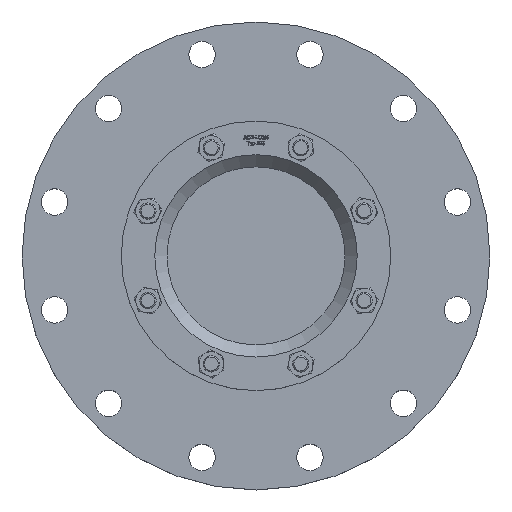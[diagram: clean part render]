
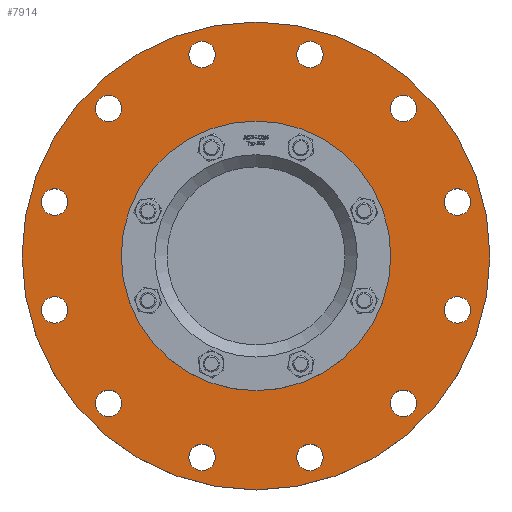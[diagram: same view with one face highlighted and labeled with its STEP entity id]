
A CAD part, top view. The second image highlights one B-rep face of the part: STEP entity #7914.
In plain terms, the highlighted planar face has unit normal (0, 0, 1).
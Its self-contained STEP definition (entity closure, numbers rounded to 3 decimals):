
#1732=FACE_BOUND('',#3178,.T.);
#1733=FACE_BOUND('',#3179,.T.);
#1734=FACE_BOUND('',#3180,.T.);
#1735=FACE_BOUND('',#3181,.T.);
#1736=FACE_BOUND('',#3182,.T.);
#1737=FACE_BOUND('',#3183,.T.);
#1738=FACE_BOUND('',#3184,.T.);
#1739=FACE_BOUND('',#3185,.T.);
#1740=FACE_BOUND('',#3186,.T.);
#1741=FACE_BOUND('',#3187,.T.);
#1742=FACE_BOUND('',#3188,.T.);
#1743=FACE_BOUND('',#3189,.T.);
#1744=FACE_BOUND('',#3190,.T.);
#1745=FACE_BOUND('',#3191,.T.);
#1746=FACE_BOUND('',#3192,.T.);
#1747=FACE_BOUND('',#3193,.T.);
#1748=FACE_BOUND('',#3194,.T.);
#1749=FACE_BOUND('',#3195,.T.);
#1750=FACE_BOUND('',#3196,.T.);
#1751=FACE_BOUND('',#3197,.T.);
#1752=FACE_BOUND('',#3198,.T.);
#2646=FACE_OUTER_BOUND('',#3177,.T.);
#3177=EDGE_LOOP('',(#7242));
#3178=EDGE_LOOP('',(#7243));
#3179=EDGE_LOOP('',(#7244));
#3180=EDGE_LOOP('',(#7245));
#3181=EDGE_LOOP('',(#7246));
#3182=EDGE_LOOP('',(#7247));
#3183=EDGE_LOOP('',(#7248));
#3184=EDGE_LOOP('',(#7249));
#3185=EDGE_LOOP('',(#7250));
#3186=EDGE_LOOP('',(#7251));
#3187=EDGE_LOOP('',(#7252));
#3188=EDGE_LOOP('',(#7253));
#3189=EDGE_LOOP('',(#7254));
#3190=EDGE_LOOP('',(#7255));
#3191=EDGE_LOOP('',(#7256));
#3192=EDGE_LOOP('',(#7257));
#3193=EDGE_LOOP('',(#7258));
#3194=EDGE_LOOP('',(#7259));
#3195=EDGE_LOOP('',(#7260));
#3196=EDGE_LOOP('',(#7261));
#3197=EDGE_LOOP('',(#7262));
#3198=EDGE_LOOP('',(#7263));
#3224=CIRCLE('',#7936,102.);
#3347=CIRCLE('',#8368,230.);
#3348=CIRCLE('',#8370,13.);
#3349=CIRCLE('',#8372,13.);
#3350=CIRCLE('',#8374,13.);
#3351=CIRCLE('',#8376,13.);
#3352=CIRCLE('',#8378,13.);
#3353=CIRCLE('',#8380,13.);
#3354=CIRCLE('',#8382,13.);
#3355=CIRCLE('',#8384,13.);
#3356=CIRCLE('',#8386,13.);
#3357=CIRCLE('',#8388,13.);
#3358=CIRCLE('',#8390,13.);
#3359=CIRCLE('',#8392,13.);
#3361=CIRCLE('',#8396,8.);
#3363=CIRCLE('',#8399,8.);
#3365=CIRCLE('',#8402,8.);
#3367=CIRCLE('',#8405,8.);
#3369=CIRCLE('',#8408,8.);
#3371=CIRCLE('',#8411,8.);
#3373=CIRCLE('',#8414,8.);
#3375=CIRCLE('',#8417,8.);
#3392=VERTEX_POINT('',#9952);
#4049=VERTEX_POINT('',#13834);
#4050=VERTEX_POINT('',#13837);
#4051=VERTEX_POINT('',#13840);
#4052=VERTEX_POINT('',#13843);
#4053=VERTEX_POINT('',#13846);
#4054=VERTEX_POINT('',#13849);
#4055=VERTEX_POINT('',#13852);
#4056=VERTEX_POINT('',#13855);
#4057=VERTEX_POINT('',#13858);
#4058=VERTEX_POINT('',#13861);
#4059=VERTEX_POINT('',#13864);
#4060=VERTEX_POINT('',#13867);
#4061=VERTEX_POINT('',#13870);
#4063=VERTEX_POINT('',#13876);
#4065=VERTEX_POINT('',#13881);
#4067=VERTEX_POINT('',#13886);
#4069=VERTEX_POINT('',#13891);
#4071=VERTEX_POINT('',#13896);
#4073=VERTEX_POINT('',#13901);
#4075=VERTEX_POINT('',#13906);
#4077=VERTEX_POINT('',#13911);
#4094=EDGE_CURVE('',#3392,#3392,#3224,.T.);
#5114=EDGE_CURVE('',#4049,#4049,#3347,.T.);
#5115=EDGE_CURVE('',#4050,#4050,#3348,.T.);
#5116=EDGE_CURVE('',#4051,#4051,#3349,.T.);
#5117=EDGE_CURVE('',#4052,#4052,#3350,.T.);
#5118=EDGE_CURVE('',#4053,#4053,#3351,.T.);
#5119=EDGE_CURVE('',#4054,#4054,#3352,.T.);
#5120=EDGE_CURVE('',#4055,#4055,#3353,.T.);
#5121=EDGE_CURVE('',#4056,#4056,#3354,.T.);
#5122=EDGE_CURVE('',#4057,#4057,#3355,.T.);
#5123=EDGE_CURVE('',#4058,#4058,#3356,.T.);
#5124=EDGE_CURVE('',#4059,#4059,#3357,.T.);
#5125=EDGE_CURVE('',#4060,#4060,#3358,.T.);
#5126=EDGE_CURVE('',#4061,#4061,#3359,.T.);
#5128=EDGE_CURVE('',#4063,#4063,#3361,.T.);
#5130=EDGE_CURVE('',#4065,#4065,#3363,.T.);
#5132=EDGE_CURVE('',#4067,#4067,#3365,.T.);
#5134=EDGE_CURVE('',#4069,#4069,#3367,.T.);
#5136=EDGE_CURVE('',#4071,#4071,#3369,.T.);
#5138=EDGE_CURVE('',#4073,#4073,#3371,.T.);
#5140=EDGE_CURVE('',#4075,#4075,#3373,.T.);
#5142=EDGE_CURVE('',#4077,#4077,#3375,.T.);
#7242=ORIENTED_EDGE('',*,*,#5114,.T.);
#7243=ORIENTED_EDGE('',*,*,#4094,.T.);
#7244=ORIENTED_EDGE('',*,*,#5142,.T.);
#7245=ORIENTED_EDGE('',*,*,#5140,.T.);
#7246=ORIENTED_EDGE('',*,*,#5138,.T.);
#7247=ORIENTED_EDGE('',*,*,#5136,.T.);
#7248=ORIENTED_EDGE('',*,*,#5134,.T.);
#7249=ORIENTED_EDGE('',*,*,#5132,.T.);
#7250=ORIENTED_EDGE('',*,*,#5130,.T.);
#7251=ORIENTED_EDGE('',*,*,#5128,.T.);
#7252=ORIENTED_EDGE('',*,*,#5126,.T.);
#7253=ORIENTED_EDGE('',*,*,#5125,.T.);
#7254=ORIENTED_EDGE('',*,*,#5124,.T.);
#7255=ORIENTED_EDGE('',*,*,#5123,.T.);
#7256=ORIENTED_EDGE('',*,*,#5122,.T.);
#7257=ORIENTED_EDGE('',*,*,#5121,.T.);
#7258=ORIENTED_EDGE('',*,*,#5120,.T.);
#7259=ORIENTED_EDGE('',*,*,#5119,.T.);
#7260=ORIENTED_EDGE('',*,*,#5118,.T.);
#7261=ORIENTED_EDGE('',*,*,#5117,.T.);
#7262=ORIENTED_EDGE('',*,*,#5116,.T.);
#7263=ORIENTED_EDGE('',*,*,#5115,.T.);
#7471=PLANE('',#8419);
#7914=ADVANCED_FACE('',(#2646,#1732,#1733,#1734,#1735,#1736,#1737,#1738,
#1739,#1740,#1741,#1742,#1743,#1744,#1745,#1746,#1747,#1748,#1749,#1750,
#1751,#1752),#7471,.T.);
#7936=AXIS2_PLACEMENT_3D('',#9953,#8459,#8460);
#8368=AXIS2_PLACEMENT_3D('',#13835,#9812,#9813);
#8370=AXIS2_PLACEMENT_3D('',#13838,#9816,#9817);
#8372=AXIS2_PLACEMENT_3D('',#13841,#9820,#9821);
#8374=AXIS2_PLACEMENT_3D('',#13844,#9824,#9825);
#8376=AXIS2_PLACEMENT_3D('',#13847,#9828,#9829);
#8378=AXIS2_PLACEMENT_3D('',#13850,#9832,#9833);
#8380=AXIS2_PLACEMENT_3D('',#13853,#9836,#9837);
#8382=AXIS2_PLACEMENT_3D('',#13856,#9840,#9841);
#8384=AXIS2_PLACEMENT_3D('',#13859,#9844,#9845);
#8386=AXIS2_PLACEMENT_3D('',#13862,#9848,#9849);
#8388=AXIS2_PLACEMENT_3D('',#13865,#9852,#9853);
#8390=AXIS2_PLACEMENT_3D('',#13868,#9856,#9857);
#8392=AXIS2_PLACEMENT_3D('',#13871,#9860,#9861);
#8396=AXIS2_PLACEMENT_3D('',#13877,#9868,#9869);
#8399=AXIS2_PLACEMENT_3D('',#13882,#9874,#9875);
#8402=AXIS2_PLACEMENT_3D('',#13887,#9880,#9881);
#8405=AXIS2_PLACEMENT_3D('',#13892,#9886,#9887);
#8408=AXIS2_PLACEMENT_3D('',#13897,#9892,#9893);
#8411=AXIS2_PLACEMENT_3D('',#13902,#9898,#9899);
#8414=AXIS2_PLACEMENT_3D('',#13907,#9904,#9905);
#8417=AXIS2_PLACEMENT_3D('',#13912,#9910,#9911);
#8419=AXIS2_PLACEMENT_3D('',#13915,#9914,#9915);
#8459=DIRECTION('center_axis',(0.,0.,-1.));
#8460=DIRECTION('ref_axis',(0.999,-0.053,0.));
#9812=DIRECTION('center_axis',(0.,0.,1.));
#9813=DIRECTION('ref_axis',(-1.,0.,0.));
#9816=DIRECTION('center_axis',(0.,0.,-1.));
#9817=DIRECTION('ref_axis',(0.866,-0.5,0.));
#9820=DIRECTION('center_axis',(0.,0.,-1.));
#9821=DIRECTION('ref_axis',(0.5,-0.866,0.));
#9824=DIRECTION('center_axis',(0.,0.,-1.));
#9825=DIRECTION('ref_axis',(0.,-1.,0.));
#9828=DIRECTION('center_axis',(0.,0.,-1.));
#9829=DIRECTION('ref_axis',(-0.5,-0.866,0.));
#9832=DIRECTION('center_axis',(0.,0.,-1.));
#9833=DIRECTION('ref_axis',(-0.866,-0.5,0.));
#9836=DIRECTION('center_axis',(0.,0.,-1.));
#9837=DIRECTION('ref_axis',(-1.,0.,0.));
#9840=DIRECTION('center_axis',(0.,0.,-1.));
#9841=DIRECTION('ref_axis',(-0.866,0.5,0.));
#9844=DIRECTION('center_axis',(0.,0.,-1.));
#9845=DIRECTION('ref_axis',(-0.5,0.866,0.));
#9848=DIRECTION('center_axis',(0.,0.,-1.));
#9849=DIRECTION('ref_axis',(0.,1.,0.));
#9852=DIRECTION('center_axis',(0.,0.,-1.));
#9853=DIRECTION('ref_axis',(0.5,0.866,0.));
#9856=DIRECTION('center_axis',(0.,0.,-1.));
#9857=DIRECTION('ref_axis',(0.866,0.5,0.));
#9860=DIRECTION('center_axis',(0.,0.,-1.));
#9861=DIRECTION('ref_axis',(1.,0.,0.));
#9868=DIRECTION('center_axis',(0.,0.,-1.));
#9869=DIRECTION('ref_axis',(1.,0.,0.));
#9874=DIRECTION('center_axis',(0.,0.,-1.));
#9875=DIRECTION('ref_axis',(1.,0.,0.));
#9880=DIRECTION('center_axis',(0.,0.,-1.));
#9881=DIRECTION('ref_axis',(1.,0.,0.));
#9886=DIRECTION('center_axis',(0.,0.,-1.));
#9887=DIRECTION('ref_axis',(1.,0.,0.));
#9892=DIRECTION('center_axis',(0.,0.,-1.));
#9893=DIRECTION('ref_axis',(1.,0.,0.));
#9898=DIRECTION('center_axis',(0.,0.,-1.));
#9899=DIRECTION('ref_axis',(1.,0.,0.));
#9904=DIRECTION('center_axis',(0.,0.,-1.));
#9905=DIRECTION('ref_axis',(1.,0.,0.));
#9910=DIRECTION('center_axis',(0.,0.,-1.));
#9911=DIRECTION('ref_axis',(1.,0.,0.));
#9914=DIRECTION('center_axis',(0.,0.,1.));
#9915=DIRECTION('ref_axis',(1.,0.,0.));
#9952=CARTESIAN_POINT('',(-101.856,5.417,36.));
#9953=CARTESIAN_POINT('Origin',(0.,0.,36.));
#13834=CARTESIAN_POINT('',(230.,0.,36.));
#13835=CARTESIAN_POINT('Origin',(0.,0.,36.));
#13837=CARTESIAN_POINT('',(156.215,138.457,36.));
#13838=CARTESIAN_POINT('Origin',(144.957,144.957,36.));
#13840=CARTESIAN_POINT('',(204.515,41.8,36.));
#13841=CARTESIAN_POINT('Origin',(198.015,53.058,36.));
#13843=CARTESIAN_POINT('',(198.015,-66.058,36.));
#13844=CARTESIAN_POINT('Origin',(198.015,-53.058,36.));
#13846=CARTESIAN_POINT('',(138.457,-156.215,36.));
#13847=CARTESIAN_POINT('Origin',(144.957,-144.957,36.));
#13849=CARTESIAN_POINT('',(41.8,-204.515,36.));
#13850=CARTESIAN_POINT('Origin',(53.058,-198.015,36.));
#13852=CARTESIAN_POINT('',(-66.058,-198.015,36.));
#13853=CARTESIAN_POINT('Origin',(-53.058,-198.015,36.));
#13855=CARTESIAN_POINT('',(-156.215,-138.457,36.));
#13856=CARTESIAN_POINT('Origin',(-144.957,-144.957,36.));
#13858=CARTESIAN_POINT('',(-204.515,-41.8,36.));
#13859=CARTESIAN_POINT('Origin',(-198.015,-53.058,36.));
#13861=CARTESIAN_POINT('',(-198.015,66.058,36.));
#13862=CARTESIAN_POINT('Origin',(-198.015,53.058,36.));
#13864=CARTESIAN_POINT('',(-138.457,156.215,36.));
#13865=CARTESIAN_POINT('Origin',(-144.957,144.957,36.));
#13867=CARTESIAN_POINT('',(-41.8,204.515,36.));
#13868=CARTESIAN_POINT('Origin',(-53.058,198.015,36.));
#13870=CARTESIAN_POINT('',(66.058,198.015,36.));
#13871=CARTESIAN_POINT('Origin',(53.058,198.015,36.));
#13876=CARTESIAN_POINT('',(-37.484,101.618,36.));
#13877=CARTESIAN_POINT('Origin',(-44.009,106.246,36.));
#13881=CARTESIAN_POINT('',(-98.359,45.35,36.));
#13882=CARTESIAN_POINT('Origin',(-106.246,44.009,36.));
#13886=CARTESIAN_POINT('',(-101.618,-37.484,36.));
#13887=CARTESIAN_POINT('Origin',(-106.246,-44.009,36.));
#13891=CARTESIAN_POINT('',(-45.35,-98.359,36.));
#13892=CARTESIAN_POINT('Origin',(-44.009,-106.246,36.));
#13896=CARTESIAN_POINT('',(37.484,-101.618,36.));
#13897=CARTESIAN_POINT('Origin',(44.009,-106.246,36.));
#13901=CARTESIAN_POINT('',(98.359,-45.35,36.));
#13902=CARTESIAN_POINT('Origin',(106.246,-44.009,36.));
#13906=CARTESIAN_POINT('',(101.618,37.484,36.));
#13907=CARTESIAN_POINT('Origin',(106.246,44.009,36.));
#13911=CARTESIAN_POINT('',(45.35,98.359,36.));
#13912=CARTESIAN_POINT('Origin',(44.009,106.246,36.));
#13915=CARTESIAN_POINT('Origin',(0.,0.,36.));
